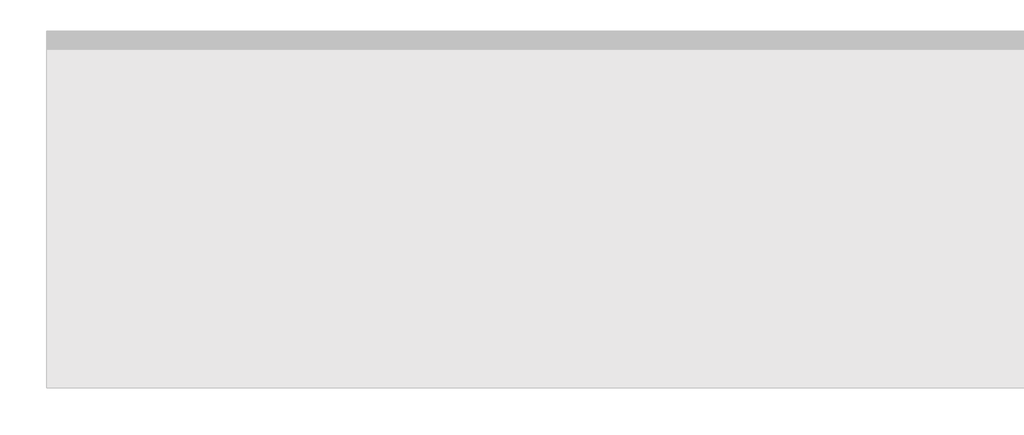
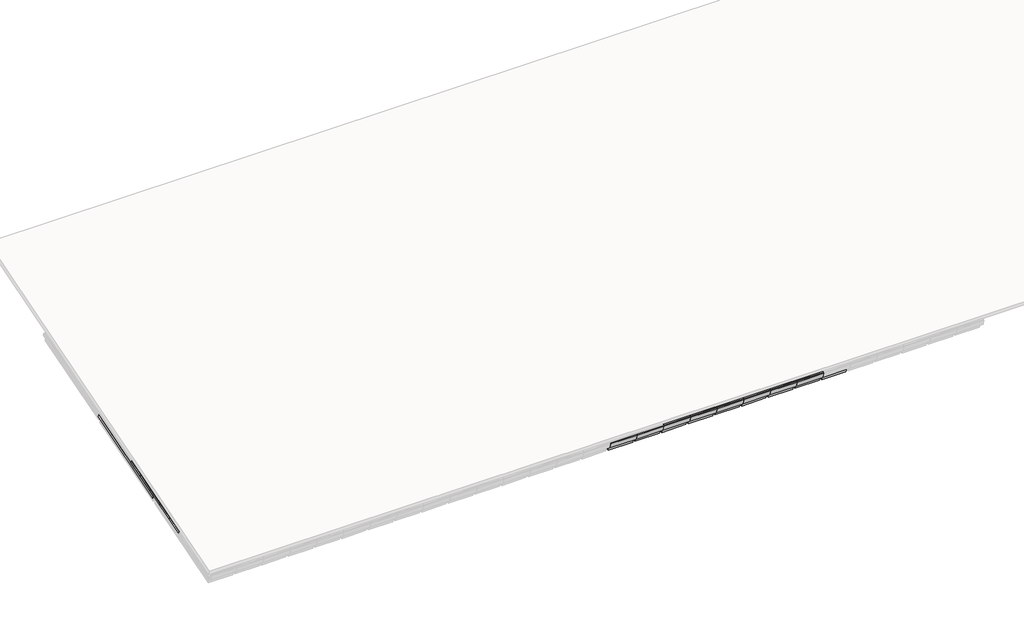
# One storey, part 8 of 57: 77 members, 46 plates.
"""IFC4 building model written with IfcOpenShell, lengths in millimetres."""

from ifc_helpers import new_model, si_unit, origin, place, context, project, spatial, transform, mapped, element, save
from components import rectangular_mullion_59984080, rectangular_mullion_e3e5c75d, rectangular_mullion_2d2423ea, rectangular_mullion_883ae41b, rectangular_mullion_caibro_e4384bba, rectangular_mullion_caibro_22b168a6, rectangular_mullion_caibro_65769db4, empty_system_panel_vazio_178faf58, empty_system_panel_vazio_2c78850d

model = new_model("IFC4")

# Units and contexts
model_context = context("Model", 3, world=origin())
ifc_project = project(units=[si_unit("LENGTHUNIT", "METRE", prefix="MILLI")], contexts=[model_context])

# Site, building, storey
site = spatial("IfcSite", under=ifc_project)
building = spatial("IfcBuilding", under=site)
storey = spatial("IfcBuildingStorey", under=building, Name="Nível 2", Elevation=4100.0)

# Members
placement = place(None, origin())
rectangular_mullion_shape = rectangular_mullion_59984080(model_context)
element("IfcMember", 1, ObjectType="Rectangular Mullion : Ripa", at=placement, inside=storey, context=model_context, shape_type="MappedRepresentation", body=[
    mapped(rectangular_mullion_shape, transform((11329.556755, 7422.2287521, 3376.7178042), x_axis=(0.0, 0.9578262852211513, 0.2873478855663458), y_axis=(0.0, 0.2873478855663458, -0.9578262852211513), z_axis=(-1.0, 0.0, 0.0))),
])
element("IfcMember", 2, ObjectType="Rectangular Mullion : Ripa", at=placement, inside=storey, context=model_context, shape_type="MappedRepresentation", body=[
    mapped(rectangular_mullion_shape, transform((11926.6115114, 7422.2287521, 3376.7178042), x_axis=(0.0, 0.9578262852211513, 0.2873478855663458), y_axis=(0.0, 0.2873478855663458, -0.9578262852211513), z_axis=(-1.0, 0.0, 0.0))),
])
element("IfcMember", 3, ObjectType="Rectangular Mullion : Ripa", at=placement, inside=storey, context=model_context, shape_type="MappedRepresentation", body=[
    mapped(rectangular_mullion_shape, transform((12523.6662678, 7422.2287521, 3376.7178042), x_axis=(0.0, 0.9578262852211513, 0.2873478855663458), y_axis=(0.0, 0.2873478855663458, -0.9578262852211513), z_axis=(-1.0, 0.0, 0.0))),
])
element("IfcMember", 4, ObjectType="Rectangular Mullion : Ripa", at=placement, inside=storey, context=model_context, shape_type="MappedRepresentation", body=[
    mapped(rectangular_mullion_shape, transform((13120.7210242, 7422.2287521, 3376.7178042), x_axis=(0.0, 0.9578262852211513, 0.2873478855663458), y_axis=(0.0, 0.2873478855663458, -0.9578262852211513), z_axis=(-1.0, 0.0, 0.0))),
])
element("IfcMember", 5, ObjectType="Rectangular Mullion : Ripa", at=placement, inside=storey, context=model_context, shape_type="MappedRepresentation", body=[
    mapped(rectangular_mullion_shape, transform((13717.7757807, 7422.2287521, 3376.7178042), x_axis=(0.0, 0.9578262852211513, 0.2873478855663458), y_axis=(0.0, 0.2873478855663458, -0.9578262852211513), z_axis=(-1.0, 0.0, 0.0))),
])
element("IfcMember", 6, ObjectType="Rectangular Mullion : Ripa", at=placement, inside=storey, context=model_context, shape_type="MappedRepresentation", body=[
    mapped(rectangular_mullion_shape, transform((14314.8305371, 7422.2287521, 3376.7178042), x_axis=(0.0, 0.9578262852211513, 0.2873478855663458), y_axis=(0.0, 0.2873478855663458, -0.9578262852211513), z_axis=(-1.0, 0.0, 0.0))),
])
element("IfcMember", 7, ObjectType="Rectangular Mullion : Ripa", at=placement, inside=storey, context=model_context, shape_type="MappedRepresentation", body=[
    mapped(rectangular_mullion_shape, transform((14911.8852935, 7422.2287521, 3376.7178042), x_axis=(0.0, 0.9578262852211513, 0.2873478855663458), y_axis=(0.0, 0.2873478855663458, -0.9578262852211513), z_axis=(-1.0, 0.0, 0.0))),
])
element("IfcMember", 8, ObjectType="Rectangular Mullion : Ripa", at=placement, inside=storey, context=model_context, shape_type="MappedRepresentation", body=[
    mapped(rectangular_mullion_shape, transform((15508.9400499, 7422.2287521, 3376.7178042), x_axis=(0.0, 0.9578262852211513, 0.2873478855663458), y_axis=(0.0, 0.2873478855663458, -0.9578262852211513), z_axis=(-1.0, 0.0, 0.0))),
])
element("IfcMember", 9, ObjectType="Rectangular Mullion : Ripa", at=placement, inside=storey, context=model_context, shape_type="MappedRepresentation", body=[
    mapped(rectangular_mullion_shape, transform((11329.556755, 7792.4060108, 3487.7709818), x_axis=(0.0, 0.9578262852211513, 0.2873478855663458), y_axis=(0.0, 0.2873478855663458, -0.9578262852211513), z_axis=(-1.0, 0.0, 0.0))),
])
element("IfcMember", 10, ObjectType="Rectangular Mullion : Ripa", at=placement, inside=storey, context=model_context, shape_type="MappedRepresentation", body=[
    mapped(rectangular_mullion_shape, transform((11926.6115114, 7792.4060108, 3487.7709818), x_axis=(0.0, 0.9578262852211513, 0.2873478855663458), y_axis=(0.0, 0.2873478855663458, -0.9578262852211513), z_axis=(-1.0, 0.0, 0.0))),
])
element("IfcMember", 11, ObjectType="Rectangular Mullion : Ripa", at=placement, inside=storey, context=model_context, shape_type="MappedRepresentation", body=[
    mapped(rectangular_mullion_shape, transform((12523.6662678, 7792.4060108, 3487.7709818), x_axis=(0.0, 0.9578262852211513, 0.2873478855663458), y_axis=(0.0, 0.2873478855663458, -0.9578262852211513), z_axis=(-1.0, 0.0, 0.0))),
])
element("IfcMember", 12, ObjectType="Rectangular Mullion : Ripa", at=placement, inside=storey, context=model_context, shape_type="MappedRepresentation", body=[
    mapped(rectangular_mullion_shape, transform((13120.7210242, 7792.4060108, 3487.7709818), x_axis=(0.0, 0.9578262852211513, 0.2873478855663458), y_axis=(0.0, 0.2873478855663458, -0.9578262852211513), z_axis=(-1.0, 0.0, 0.0))),
])
element("IfcMember", 13, ObjectType="Rectangular Mullion : Ripa", at=placement, inside=storey, context=model_context, shape_type="MappedRepresentation", body=[
    mapped(rectangular_mullion_shape, transform((13717.7757807, 7792.4060108, 3487.7709818), x_axis=(0.0, 0.9578262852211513, 0.2873478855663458), y_axis=(0.0, 0.2873478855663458, -0.9578262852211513), z_axis=(-1.0, 0.0, 0.0))),
])
element("IfcMember", 14, ObjectType="Rectangular Mullion : Ripa", at=placement, inside=storey, context=model_context, shape_type="MappedRepresentation", body=[
    mapped(rectangular_mullion_shape, transform((14314.8305371, 7792.4060108, 3487.7709818), x_axis=(0.0, 0.9578262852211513, 0.2873478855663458), y_axis=(0.0, 0.2873478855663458, -0.9578262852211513), z_axis=(-1.0, 0.0, 0.0))),
])
element("IfcMember", 15, ObjectType="Rectangular Mullion : Ripa", at=placement, inside=storey, context=model_context, shape_type="MappedRepresentation", body=[
    mapped(rectangular_mullion_shape, transform((14911.8852935, 7792.4060108, 3487.7709818), x_axis=(0.0, 0.9578262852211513, 0.2873478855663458), y_axis=(0.0, 0.2873478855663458, -0.9578262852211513), z_axis=(-1.0, 0.0, 0.0))),
])
element("IfcMember", 16, ObjectType="Rectangular Mullion : Ripa", at=placement, inside=storey, context=model_context, shape_type="MappedRepresentation", body=[
    mapped(rectangular_mullion_shape, transform((15508.9400499, 7792.4060108, 3487.7709818), x_axis=(0.0, 0.9578262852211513, 0.2873478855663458), y_axis=(0.0, 0.2873478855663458, -0.9578262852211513), z_axis=(-1.0, 0.0, 0.0))),
])
element("IfcMember", 17, ObjectType="Rectangular Mullion : Ripa", at=placement, inside=storey, context=model_context, shape_type="MappedRepresentation", body=[
    mapped(rectangular_mullion_shape, transform((1776.6806519, 8162.5832694, 3598.8241594), x_axis=(0.0, 0.9578262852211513, 0.2873478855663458), y_axis=(0.0, 0.2873478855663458, -0.9578262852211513), z_axis=(-1.0, 0.0, 0.0))),
])
element("IfcMember", 18, ObjectType="Rectangular Mullion : Ripa", at=placement, inside=storey, context=model_context, shape_type="MappedRepresentation", body=[
    mapped(rectangular_mullion_shape, transform((2373.7354086, 8162.5832694, 3598.8241594), x_axis=(0.0, 0.9578262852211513, 0.2873478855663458), y_axis=(0.0, 0.2873478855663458, -0.9578262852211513), z_axis=(-1.0, 0.0, 0.0))),
])
element("IfcMember", 19, ObjectType="Rectangular Mullion : Ripa", at=placement, inside=storey, context=model_context, shape_type="MappedRepresentation", body=[
    mapped(rectangular_mullion_shape, transform((2970.790165, 8162.5832694, 3598.8241594), x_axis=(0.0, 0.9578262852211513, 0.2873478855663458), y_axis=(0.0, 0.2873478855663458, -0.9578262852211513), z_axis=(-1.0, 0.0, 0.0))),
])
element("IfcMember", 20, ObjectType="Rectangular Mullion : Ripa", at=placement, inside=storey, context=model_context, shape_type="MappedRepresentation", body=[
    mapped(rectangular_mullion_shape, transform((3567.8449214, 8162.5832694, 3598.8241594), x_axis=(0.0, 0.9578262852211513, 0.2873478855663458), y_axis=(0.0, 0.2873478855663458, -0.9578262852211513), z_axis=(-1.0, 0.0, 0.0))),
])
element("IfcMember", 21, ObjectType="Rectangular Mullion : Ripa", at=placement, inside=storey, context=model_context, shape_type="MappedRepresentation", body=[
    mapped(rectangular_mullion_shape, transform((1776.6806519, 8532.7605281, 3709.877337), x_axis=(0.0, 0.9578262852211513, 0.2873478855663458), y_axis=(0.0, 0.2873478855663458, -0.9578262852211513), z_axis=(-1.0, 0.0, 0.0))),
])
element("IfcMember", 22, ObjectType="Rectangular Mullion : Ripa", at=placement, inside=storey, context=model_context, shape_type="MappedRepresentation", body=[
    mapped(rectangular_mullion_shape, transform((2373.7354086, 8532.7605281, 3709.877337), x_axis=(0.0, 0.9578262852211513, 0.2873478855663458), y_axis=(0.0, 0.2873478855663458, -0.9578262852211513), z_axis=(-1.0, 0.0, 0.0))),
])
element("IfcMember", 23, ObjectType="Rectangular Mullion : Ripa", at=placement, inside=storey, context=model_context, shape_type="MappedRepresentation", body=[
    mapped(rectangular_mullion_shape, transform((2970.790165, 8532.7605281, 3709.877337), x_axis=(0.0, 0.9578262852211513, 0.2873478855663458), y_axis=(0.0, 0.2873478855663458, -0.9578262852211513), z_axis=(-1.0, 0.0, 0.0))),
])
element("IfcMember", 24, ObjectType="Rectangular Mullion : Ripa", at=placement, inside=storey, context=model_context, shape_type="MappedRepresentation", body=[
    mapped(rectangular_mullion_shape, transform((3567.8449214, 8532.7605281, 3709.877337), x_axis=(0.0, 0.9578262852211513, 0.2873478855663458), y_axis=(0.0, 0.2873478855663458, -0.9578262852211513), z_axis=(-1.0, 0.0, 0.0))),
])
element("IfcMember", 25, ObjectType="Rectangular Mullion : Ripa", at=placement, inside=storey, context=model_context, shape_type="MappedRepresentation", body=[
    mapped(rectangular_mullion_shape, transform((1776.6806519, 8902.9377868, 3820.9305146), x_axis=(0.0, 0.9578262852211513, 0.2873478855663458), y_axis=(0.0, 0.2873478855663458, -0.9578262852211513), z_axis=(-1.0, 0.0, 0.0))),
])
element("IfcMember", 26, ObjectType="Rectangular Mullion : Ripa", at=placement, inside=storey, context=model_context, shape_type="MappedRepresentation", body=[
    mapped(rectangular_mullion_shape, transform((2373.7354086, 8902.9377868, 3820.9305146), x_axis=(0.0, 0.9578262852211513, 0.2873478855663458), y_axis=(0.0, 0.2873478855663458, -0.9578262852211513), z_axis=(-1.0, 0.0, 0.0))),
])
element("IfcMember", 27, ObjectType="Rectangular Mullion : Ripa", at=placement, inside=storey, context=model_context, shape_type="MappedRepresentation", body=[
    mapped(rectangular_mullion_shape, transform((2970.790165, 8902.9377868, 3820.9305146), x_axis=(0.0, 0.9578262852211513, 0.2873478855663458), y_axis=(0.0, 0.2873478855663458, -0.9578262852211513), z_axis=(-1.0, 0.0, 0.0))),
])
element("IfcMember", 28, ObjectType="Rectangular Mullion : Ripa", at=placement, inside=storey, context=model_context, shape_type="MappedRepresentation", body=[
    mapped(rectangular_mullion_shape, transform((3567.8449214, 8902.9377868, 3820.9305146), x_axis=(0.0, 0.9578262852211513, 0.2873478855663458), y_axis=(0.0, 0.2873478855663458, -0.9578262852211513), z_axis=(-1.0, 0.0, 0.0))),
])
element("IfcMember", 29, ObjectType="Rectangular Mullion : Ripa", at=placement, inside=storey, context=model_context, shape_type="MappedRepresentation", body=[
    mapped(rectangular_mullion_shape, transform((1776.6806519, 9273.1150454, 3931.9836922), x_axis=(0.0, 0.9578262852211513, 0.2873478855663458), y_axis=(0.0, 0.2873478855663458, -0.9578262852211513), z_axis=(-1.0, 0.0, 0.0))),
])
element("IfcMember", 30, ObjectType="Rectangular Mullion : Ripa", at=placement, inside=storey, context=model_context, shape_type="MappedRepresentation", body=[
    mapped(rectangular_mullion_shape, transform((1776.6806519, 9643.2923041, 4043.0368698), x_axis=(0.0, 0.9578262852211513, 0.2873478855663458), y_axis=(0.0, 0.2873478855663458, -0.9578262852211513), z_axis=(-1.0, 0.0, 0.0))),
])
rectangular_mullion_2_shape = rectangular_mullion_e3e5c75d(model_context)
element("IfcMember", 31, ObjectType="Rectangular Mullion : Ripa", at=placement, inside=storey, context=model_context, shape_type="MappedRepresentation", body=[
    mapped(rectangular_mullion_2_shape, transform((12498.6662678, 7004.1601792, 3251.2972323), x_axis=(0.0, -0.9578262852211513, -0.2873478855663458), y_axis=(0.0, 0.2873478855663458, -0.9578262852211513), z_axis=(1.0, 0.0, 0.0))),
])
element("IfcMember", 32, ObjectType="Rectangular Mullion : Ripa", at=placement, inside=storey, context=model_context, shape_type="MappedRepresentation", body=[
    mapped(rectangular_mullion_2_shape, transform((13095.7210242, 7004.1601792, 3251.2972323), x_axis=(0.0, -0.9578262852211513, -0.2873478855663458), y_axis=(0.0, 0.2873478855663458, -0.9578262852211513), z_axis=(1.0, 0.0, 0.0))),
])
element("IfcMember", 33, ObjectType="Rectangular Mullion : Ripa", at=placement, inside=storey, context=model_context, shape_type="MappedRepresentation", body=[
    mapped(rectangular_mullion_2_shape, transform((13692.7757807, 7004.1601792, 3251.2972323), x_axis=(0.0, -0.9578262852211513, -0.2873478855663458), y_axis=(0.0, 0.2873478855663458, -0.9578262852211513), z_axis=(1.0, 0.0, 0.0))),
])
element("IfcMember", 34, ObjectType="Rectangular Mullion : Ripa", at=placement, inside=storey, context=model_context, shape_type="MappedRepresentation", body=[
    mapped(rectangular_mullion_2_shape, transform((14289.8305371, 7004.1601792, 3251.2972323), x_axis=(0.0, -0.9578262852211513, -0.2873478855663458), y_axis=(0.0, 0.2873478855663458, -0.9578262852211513), z_axis=(1.0, 0.0, 0.0))),
])
element("IfcMember", 35, ObjectType="Rectangular Mullion : Ripa", at=placement, inside=storey, context=model_context, shape_type="MappedRepresentation", body=[
    mapped(rectangular_mullion_2_shape, transform((14886.8852935, 7004.1601792, 3251.2972323), x_axis=(0.0, -0.9578262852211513, -0.2873478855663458), y_axis=(0.0, 0.2873478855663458, -0.9578262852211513), z_axis=(1.0, 0.0, 0.0))),
])
element("IfcMember", 36, ObjectType="Rectangular Mullion : Ripa", at=placement, inside=storey, context=model_context, shape_type="MappedRepresentation", body=[
    mapped(rectangular_mullion_2_shape, transform((15483.9400499, 7004.1601792, 3251.2972323), x_axis=(0.0, -0.9578262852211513, -0.2873478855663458), y_axis=(0.0, 0.2873478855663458, -0.9578262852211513), z_axis=(1.0, 0.0, 0.0))),
])
rectangular_mullion_3_shape = rectangular_mullion_2d2423ea(model_context)
element("IfcMember", 37, ObjectType="Rectangular Mullion : Terça", at=placement, inside=storey, context=model_context, shape_type="MappedRepresentation", body=[
    mapped(rectangular_mullion_3_shape, transform((1776.6806519, 9159.0196393, 3835.1132313), x_axis=(0.0, 0.9578262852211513, 0.2873478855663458), y_axis=(0.0, 0.2873478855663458, -0.9578262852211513), z_axis=(-1.0, 0.0, 0.0))),
])
rectangular_mullion_4_shape = rectangular_mullion_883ae41b(model_context)
element("IfcMember", 38, ObjectType="Rectangular Mullion : Terça", at=placement, inside=storey, context=model_context, shape_type="MappedRepresentation", body=[
    mapped(rectangular_mullion_4_shape, transform((11304.556755, 7004.1601792, 3188.6553932), x_axis=(0.0, -0.9578262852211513, -0.2873478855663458), y_axis=(0.0, 0.2873478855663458, -0.9578262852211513), z_axis=(1.0, 0.0, 0.0))),
])
element("IfcMember", 39, ObjectType="Rectangular Mullion : Terça", at=placement, inside=storey, context=model_context, shape_type="MappedRepresentation", body=[
    mapped(rectangular_mullion_4_shape, transform((11901.6115114, 7004.1601792, 3188.6553932), x_axis=(0.0, -0.9578262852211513, -0.2873478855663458), y_axis=(0.0, 0.2873478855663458, -0.9578262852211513), z_axis=(1.0, 0.0, 0.0))),
])
element("IfcMember", 40, ObjectType="Rectangular Mullion : Terça", at=placement, inside=storey, context=model_context, shape_type="MappedRepresentation", body=[
    mapped(rectangular_mullion_4_shape, transform((12498.6662678, 7004.1601792, 3188.6553932), x_axis=(0.0, -0.9578262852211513, -0.2873478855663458), y_axis=(0.0, 0.2873478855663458, -0.9578262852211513), z_axis=(1.0, 0.0, 0.0))),
])
element("IfcMember", 41, ObjectType="Rectangular Mullion : Terça", at=placement, inside=storey, context=model_context, shape_type="MappedRepresentation", body=[
    mapped(rectangular_mullion_4_shape, transform((13095.7210242, 7004.1601792, 3188.6553932), x_axis=(0.0, -0.9578262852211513, -0.2873478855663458), y_axis=(0.0, 0.2873478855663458, -0.9578262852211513), z_axis=(1.0, 0.0, 0.0))),
])
element("IfcMember", 42, ObjectType="Rectangular Mullion : Terça", at=placement, inside=storey, context=model_context, shape_type="MappedRepresentation", body=[
    mapped(rectangular_mullion_4_shape, transform((13692.7757807, 7004.1601792, 3188.6553932), x_axis=(0.0, -0.9578262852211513, -0.2873478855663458), y_axis=(0.0, 0.2873478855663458, -0.9578262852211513), z_axis=(1.0, 0.0, 0.0))),
])
element("IfcMember", 43, ObjectType="Rectangular Mullion : Terça", at=placement, inside=storey, context=model_context, shape_type="MappedRepresentation", body=[
    mapped(rectangular_mullion_4_shape, transform((14289.8305371, 7004.1601792, 3188.6553932), x_axis=(0.0, -0.9578262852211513, -0.2873478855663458), y_axis=(0.0, 0.2873478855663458, -0.9578262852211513), z_axis=(1.0, 0.0, 0.0))),
])
element("IfcMember", 44, ObjectType="Rectangular Mullion : Terça", at=placement, inside=storey, context=model_context, shape_type="MappedRepresentation", body=[
    mapped(rectangular_mullion_4_shape, transform((14886.8852935, 7004.1601792, 3188.6553932), x_axis=(0.0, -0.9578262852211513, -0.2873478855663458), y_axis=(0.0, 0.2873478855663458, -0.9578262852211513), z_axis=(1.0, 0.0, 0.0))),
])
element("IfcMember", 45, ObjectType="Rectangular Mullion : Terça", at=placement, inside=storey, context=model_context, shape_type="MappedRepresentation", body=[
    mapped(rectangular_mullion_4_shape, transform((15483.9400499, 7004.1601792, 3188.6553932), x_axis=(0.0, -0.9578262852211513, -0.2873478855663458), y_axis=(0.0, 0.2873478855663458, -0.9578262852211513), z_axis=(1.0, 0.0, 0.0))),
])
rectangular_mullion_caibro_shape = rectangular_mullion_caibro_e4384bba(model_context)
element("IfcMember", 46, ObjectType="Rectangular Mullion : Caibro", at=placement, inside=storey, context=model_context, shape_type="MappedRepresentation", body=[
    mapped(rectangular_mullion_caibro_shape, transform((11901.6115114, 7422.2287521, 3376.7178042), x_axis=(1.0, 0.0, 0.0), y_axis=(0.0, 0.2873478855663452, -0.9578262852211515), z_axis=(0.0, 0.9578262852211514, 0.28734788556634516))),
])
element("IfcMember", 47, ObjectType="Rectangular Mullion : Caibro", at=placement, inside=storey, context=model_context, shape_type="MappedRepresentation", body=[
    mapped(rectangular_mullion_caibro_shape, transform((12498.6662678, 7422.2287521, 3376.7178042), x_axis=(1.0, 0.0, 0.0), y_axis=(0.0, 0.2873478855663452, -0.9578262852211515), z_axis=(0.0, 0.9578262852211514, 0.28734788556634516))),
])
element("IfcMember", 48, ObjectType="Rectangular Mullion : Caibro", at=placement, inside=storey, context=model_context, shape_type="MappedRepresentation", body=[
    mapped(rectangular_mullion_caibro_shape, transform((13095.7210242, 7422.2287521, 3376.7178042), x_axis=(1.0, 0.0, 0.0), y_axis=(0.0, 0.2873478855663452, -0.9578262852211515), z_axis=(0.0, 0.9578262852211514, 0.28734788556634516))),
])
element("IfcMember", 49, ObjectType="Rectangular Mullion : Caibro", at=placement, inside=storey, context=model_context, shape_type="MappedRepresentation", body=[
    mapped(rectangular_mullion_caibro_shape, transform((13692.7757807, 7422.2287521, 3376.7178042), x_axis=(1.0, 0.0, 0.0), y_axis=(0.0, 0.2873478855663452, -0.9578262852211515), z_axis=(0.0, 0.9578262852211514, 0.28734788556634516))),
])
element("IfcMember", 50, ObjectType="Rectangular Mullion : Caibro", at=placement, inside=storey, context=model_context, shape_type="MappedRepresentation", body=[
    mapped(rectangular_mullion_caibro_shape, transform((14289.8305371, 7422.2287521, 3376.7178042), x_axis=(1.0, 0.0, 0.0), y_axis=(0.0, 0.2873478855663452, -0.9578262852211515), z_axis=(0.0, 0.9578262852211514, 0.28734788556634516))),
])
element("IfcMember", 51, ObjectType="Rectangular Mullion : Caibro", at=placement, inside=storey, context=model_context, shape_type="MappedRepresentation", body=[
    mapped(rectangular_mullion_caibro_shape, transform((14886.8852935, 7422.2287521, 3376.7178042), x_axis=(1.0, 0.0, 0.0), y_axis=(0.0, 0.2873478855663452, -0.9578262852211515), z_axis=(0.0, 0.9578262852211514, 0.28734788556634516))),
])
element("IfcMember", 52, ObjectType="Rectangular Mullion : Caibro", at=placement, inside=storey, context=model_context, shape_type="MappedRepresentation", body=[
    mapped(rectangular_mullion_caibro_shape, transform((15483.9400499, 7422.2287521, 3376.7178042), x_axis=(1.0, 0.0, 0.0), y_axis=(0.0, 0.2873478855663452, -0.9578262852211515), z_axis=(0.0, 0.9578262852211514, 0.28734788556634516))),
])
element("IfcMember", 53, ObjectType="Rectangular Mullion : Caibro", at=placement, inside=storey, context=model_context, shape_type="MappedRepresentation", body=[
    mapped(rectangular_mullion_caibro_shape, transform((2348.7354086, 8162.5832694, 3598.8241594), x_axis=(1.0, 0.0, 0.0), y_axis=(0.0, 0.28734788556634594, -0.9578262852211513), z_axis=(0.0, 0.9578262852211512, 0.2873478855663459))),
])
element("IfcMember", 54, ObjectType="Rectangular Mullion : Caibro", at=placement, inside=storey, context=model_context, shape_type="MappedRepresentation", body=[
    mapped(rectangular_mullion_caibro_shape, transform((2348.7354086, 8532.7605281, 3709.877337), x_axis=(1.0, 0.0, 0.0), y_axis=(0.0, 0.2873478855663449, -0.9578262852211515), z_axis=(0.0, 0.9578262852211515, 0.2873478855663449))),
])
element("IfcMember", 55, ObjectType="Rectangular Mullion : Caibro", at=placement, inside=storey, context=model_context, shape_type="MappedRepresentation", body=[
    mapped(rectangular_mullion_caibro_shape, transform((2348.7354086, 8902.9377868, 3820.9305146), x_axis=(1.0, 0.0, 0.0), y_axis=(0.0, 0.2873478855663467, -0.9578262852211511), z_axis=(0.0, 0.9578262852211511, 0.2873478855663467))),
])
element("IfcMember", 56, ObjectType="Rectangular Mullion : Caibro", at=placement, inside=storey, context=model_context, shape_type="MappedRepresentation", body=[
    mapped(rectangular_mullion_caibro_shape, transform((2348.7354086, 9273.1150454, 3931.9836922), x_axis=(1.0, 0.0, 0.0), y_axis=(0.0, 0.2873478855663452, -0.9578262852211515), z_axis=(0.0, 0.9578262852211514, 0.28734788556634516))),
])
element("IfcMember", 57, ObjectType="Rectangular Mullion : Caibro", at=placement, inside=storey, context=model_context, shape_type="MappedRepresentation", body=[
    mapped(rectangular_mullion_caibro_shape, transform((2348.7354086, 9643.2923041, 4043.0368698), x_axis=(1.0, 0.0, 0.0), y_axis=(0.0, 0.2873478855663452, -0.9578262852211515), z_axis=(0.0, 0.9578262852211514, 0.28734788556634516))),
])
element("IfcMember", 58, ObjectType="Rectangular Mullion : Caibro", at=placement, inside=storey, context=model_context, shape_type="MappedRepresentation", body=[
    mapped(rectangular_mullion_caibro_shape, transform((2945.790165, 8162.5832694, 3598.8241594), x_axis=(1.0, 0.0, 0.0), y_axis=(0.0, 0.28734788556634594, -0.9578262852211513), z_axis=(0.0, 0.9578262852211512, 0.2873478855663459))),
])
element("IfcMember", 59, ObjectType="Rectangular Mullion : Caibro", at=placement, inside=storey, context=model_context, shape_type="MappedRepresentation", body=[
    mapped(rectangular_mullion_caibro_shape, transform((2945.790165, 8532.7605281, 3709.877337), x_axis=(1.0, 0.0, 0.0), y_axis=(0.0, 0.2873478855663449, -0.9578262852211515), z_axis=(0.0, 0.9578262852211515, 0.2873478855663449))),
])
element("IfcMember", 60, ObjectType="Rectangular Mullion : Caibro", at=placement, inside=storey, context=model_context, shape_type="MappedRepresentation", body=[
    mapped(rectangular_mullion_caibro_shape, transform((2945.790165, 8902.9377868, 3820.9305146), x_axis=(1.0, 0.0, 0.0), y_axis=(0.0, 0.2873478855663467, -0.9578262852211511), z_axis=(0.0, 0.9578262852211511, 0.2873478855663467))),
])
element("IfcMember", 61, ObjectType="Rectangular Mullion : Caibro", at=placement, inside=storey, context=model_context, shape_type="MappedRepresentation", body=[
    mapped(rectangular_mullion_caibro_shape, transform((3542.8449214, 8162.5832694, 3598.8241594), x_axis=(1.0, 0.0, 0.0), y_axis=(0.0, 0.28734788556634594, -0.9578262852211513), z_axis=(0.0, 0.9578262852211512, 0.2873478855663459))),
])
element("IfcMember", 62, ObjectType="Rectangular Mullion : Caibro", at=placement, inside=storey, context=model_context, shape_type="MappedRepresentation", body=[
    mapped(rectangular_mullion_caibro_shape, transform((3542.8449214, 8532.7605281, 3709.877337), x_axis=(1.0, 0.0, 0.0), y_axis=(0.0, 0.2873478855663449, -0.9578262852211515), z_axis=(0.0, 0.9578262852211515, 0.2873478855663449))),
])
element("IfcMember", 63, ObjectType="Rectangular Mullion : Caibro", at=placement, inside=storey, context=model_context, shape_type="MappedRepresentation", body=[
    mapped(rectangular_mullion_caibro_shape, transform((3542.8449214, 8902.9377868, 3820.9305146), x_axis=(1.0, 0.0, 0.0), y_axis=(0.0, 0.2873478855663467, -0.9578262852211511), z_axis=(0.0, 0.9578262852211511, 0.2873478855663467))),
])
element("IfcMember", 64, ObjectType="Rectangular Mullion : Caibro", at=placement, inside=storey, context=model_context, shape_type="MappedRepresentation", body=[
    mapped(rectangular_mullion_caibro_shape, transform((11304.556755, 7792.4060108, 3487.7709818), x_axis=(1.0, 0.0, 0.0), y_axis=(0.0, 0.2873478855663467, -0.9578262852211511), z_axis=(0.0, 0.9578262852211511, 0.2873478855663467))),
])
element("IfcMember", 65, ObjectType="Rectangular Mullion : Caibro", at=placement, inside=storey, context=model_context, shape_type="MappedRepresentation", body=[
    mapped(rectangular_mullion_caibro_shape, transform((11901.6115114, 7792.4060108, 3487.7709818), x_axis=(1.0, 0.0, 0.0), y_axis=(0.0, 0.2873478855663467, -0.9578262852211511), z_axis=(0.0, 0.9578262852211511, 0.2873478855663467))),
])
element("IfcMember", 66, ObjectType="Rectangular Mullion : Caibro", at=placement, inside=storey, context=model_context, shape_type="MappedRepresentation", body=[
    mapped(rectangular_mullion_caibro_shape, transform((12498.6662678, 7792.4060108, 3487.7709818), x_axis=(1.0, 0.0, 0.0), y_axis=(0.0, 0.2873478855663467, -0.9578262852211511), z_axis=(0.0, 0.9578262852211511, 0.2873478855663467))),
])
element("IfcMember", 67, ObjectType="Rectangular Mullion : Caibro", at=placement, inside=storey, context=model_context, shape_type="MappedRepresentation", body=[
    mapped(rectangular_mullion_caibro_shape, transform((13095.7210242, 7792.4060108, 3487.7709818), x_axis=(1.0, 0.0, 0.0), y_axis=(0.0, 0.2873478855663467, -0.9578262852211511), z_axis=(0.0, 0.9578262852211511, 0.2873478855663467))),
])
element("IfcMember", 68, ObjectType="Rectangular Mullion : Caibro", at=placement, inside=storey, context=model_context, shape_type="MappedRepresentation", body=[
    mapped(rectangular_mullion_caibro_shape, transform((13692.7757807, 7792.4060108, 3487.7709818), x_axis=(1.0, 0.0, 0.0), y_axis=(0.0, 0.2873478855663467, -0.9578262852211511), z_axis=(0.0, 0.9578262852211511, 0.2873478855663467))),
])
element("IfcMember", 69, ObjectType="Rectangular Mullion : Caibro", at=placement, inside=storey, context=model_context, shape_type="MappedRepresentation", body=[
    mapped(rectangular_mullion_caibro_shape, transform((14289.8305371, 7792.4060108, 3487.7709818), x_axis=(1.0, 0.0, 0.0), y_axis=(0.0, 0.2873478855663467, -0.9578262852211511), z_axis=(0.0, 0.9578262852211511, 0.2873478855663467))),
])
element("IfcMember", 70, ObjectType="Rectangular Mullion : Caibro", at=placement, inside=storey, context=model_context, shape_type="MappedRepresentation", body=[
    mapped(rectangular_mullion_caibro_shape, transform((14886.8852935, 7792.4060108, 3487.7709818), x_axis=(1.0, 0.0, 0.0), y_axis=(0.0, 0.2873478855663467, -0.9578262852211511), z_axis=(0.0, 0.9578262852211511, 0.2873478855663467))),
])
element("IfcMember", 71, ObjectType="Rectangular Mullion : Caibro", at=placement, inside=storey, context=model_context, shape_type="MappedRepresentation", body=[
    mapped(rectangular_mullion_caibro_shape, transform((15483.9400499, 7792.4060108, 3487.7709818), x_axis=(1.0, 0.0, 0.0), y_axis=(0.0, 0.2873478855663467, -0.9578262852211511), z_axis=(0.0, 0.9578262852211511, 0.2873478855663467))),
])
rectangular_mullion_caibro_2_shape = rectangular_mullion_caibro_22b168a6(model_context)
element("IfcMember", 72, ObjectType="Rectangular Mullion : Caibro", at=placement, inside=storey, context=model_context, shape_type="MappedRepresentation", body=[
    mapped(rectangular_mullion_caibro_2_shape, transform((1726.6806519, 8162.5832694, 3598.8241594), x_axis=(-1.0, 0.0, 0.0), y_axis=(0.0, 0.28734788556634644, -0.9578262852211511), z_axis=(0.0, -0.957826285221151, -0.2873478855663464))),
])
element("IfcMember", 73, ObjectType="Rectangular Mullion : Caibro", at=placement, inside=storey, context=model_context, shape_type="MappedRepresentation", body=[
    mapped(rectangular_mullion_caibro_2_shape, transform((1726.6806519, 8532.7605281, 3709.877337), x_axis=(-1.0, 0.0, 0.0), y_axis=(0.0, 0.2873478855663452, -0.9578262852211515), z_axis=(0.0, -0.9578262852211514, -0.28734788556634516))),
])
element("IfcMember", 74, ObjectType="Rectangular Mullion : Caibro", at=placement, inside=storey, context=model_context, shape_type="MappedRepresentation", body=[
    mapped(rectangular_mullion_caibro_2_shape, transform((1726.6806519, 8902.9377868, 3820.9305146), x_axis=(-1.0, 0.0, 0.0), y_axis=(0.0, 0.28734788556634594, -0.9578262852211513), z_axis=(0.0, -0.9578262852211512, -0.2873478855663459))),
])
element("IfcMember", 75, ObjectType="Rectangular Mullion : Caibro", at=placement, inside=storey, context=model_context, shape_type="MappedRepresentation", body=[
    mapped(rectangular_mullion_caibro_2_shape, transform((1726.6806519, 9273.1150454, 3931.9836922), x_axis=(-1.0, 0.0, 0.0), y_axis=(0.0, 0.2873478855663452, -0.9578262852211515), z_axis=(0.0, -0.9578262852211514, -0.28734788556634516))),
])
element("IfcMember", 76, ObjectType="Rectangular Mullion : Caibro", at=placement, inside=storey, context=model_context, shape_type="MappedRepresentation", body=[
    mapped(rectangular_mullion_caibro_2_shape, transform((1726.6806519, 9643.2923041, 4043.0368698), x_axis=(-1.0, 0.0, 0.0), y_axis=(0.0, 0.28734788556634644, -0.9578262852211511), z_axis=(0.0, -0.957826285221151, -0.2873478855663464))),
])
rectangular_mullion_caibro_3_shape = rectangular_mullion_caibro_65769db4(model_context)
element("IfcMember", 77, ObjectType="Rectangular Mullion : Caibro", at=placement, inside=storey, context=model_context, shape_type="MappedRepresentation", body=[
    mapped(rectangular_mullion_caibro_3_shape, transform((1726.6806519, 9159.0196393, 3835.1132313), x_axis=(-1.0, 0.0, 0.0), y_axis=(0.0, 0.28734788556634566, -0.9578262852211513), z_axis=(0.0, -0.9578262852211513, -0.28734788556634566))),
])

# Plates
empty_system_panel_vazio_shape = empty_system_panel_vazio_178faf58(model_context)
element("IfcPlate", 78, ObjectType="Empty System Panel : Vazio", at=placement, inside=storey, context=model_context, shape_type="MappedRepresentation", body=[
    mapped(empty_system_panel_vazio_shape, transform((12200.1388896, 7052.0514934, 3265.6646266), x_axis=(1.0, 0.0, 0.0), y_axis=(0.0, 0.2873478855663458, -0.9578262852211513), z_axis=(0.0, 0.9578262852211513, 0.2873478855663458))),
])
element("IfcPlate", 79, ObjectType="Empty System Panel : Vazio", at=placement, inside=storey, context=model_context, shape_type="MappedRepresentation", body=[
    mapped(empty_system_panel_vazio_shape, transform((12797.193646, 7052.0514934, 3265.6646266), x_axis=(1.0, 0.0, 0.0), y_axis=(0.0, 0.2873478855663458, -0.9578262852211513), z_axis=(0.0, 0.9578262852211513, 0.2873478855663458))),
])
element("IfcPlate", 80, ObjectType="Empty System Panel : Vazio", at=placement, inside=storey, context=model_context, shape_type="MappedRepresentation", body=[
    mapped(empty_system_panel_vazio_shape, transform((13394.2484024, 7052.0514934, 3265.6646266), x_axis=(1.0, 0.0, 0.0), y_axis=(0.0, 0.2873478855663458, -0.9578262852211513), z_axis=(0.0, 0.9578262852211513, 0.2873478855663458))),
])
element("IfcPlate", 81, ObjectType="Empty System Panel : Vazio", at=placement, inside=storey, context=model_context, shape_type="MappedRepresentation", body=[
    mapped(empty_system_panel_vazio_shape, transform((13991.3031589, 7052.0514934, 3265.6646266), x_axis=(1.0, 0.0, 0.0), y_axis=(0.0, 0.2873478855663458, -0.9578262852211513), z_axis=(0.0, 0.9578262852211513, 0.2873478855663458))),
])
element("IfcPlate", 82, ObjectType="Empty System Panel : Vazio", at=placement, inside=storey, context=model_context, shape_type="MappedRepresentation", body=[
    mapped(empty_system_panel_vazio_shape, transform((14588.3579153, 7052.0514934, 3265.6646266), x_axis=(1.0, 0.0, 0.0), y_axis=(0.0, 0.2873478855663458, -0.9578262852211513), z_axis=(0.0, 0.9578262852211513, 0.2873478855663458))),
])
element("IfcPlate", 83, ObjectType="Empty System Panel : Vazio", at=placement, inside=storey, context=model_context, shape_type="MappedRepresentation", body=[
    mapped(empty_system_panel_vazio_shape, transform((15185.4126717, 7052.0514934, 3265.6646266), x_axis=(1.0, 0.0, 0.0), y_axis=(0.0, 0.2873478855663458, -0.9578262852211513), z_axis=(0.0, 0.9578262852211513, 0.2873478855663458))),
])
element("IfcPlate", 84, ObjectType="Empty System Panel : Vazio", at=placement, inside=storey, context=model_context, shape_type="MappedRepresentation", body=[
    mapped(empty_system_panel_vazio_shape, transform((15782.4674281, 7052.0514934, 3265.6646266), x_axis=(1.0, 0.0, 0.0), y_axis=(0.0, 0.2873478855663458, -0.9578262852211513), z_axis=(0.0, 0.9578262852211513, 0.2873478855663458))),
])
element("IfcPlate", 85, ObjectType="Empty System Panel : Vazio", at=placement, inside=storey, context=model_context, shape_type="MappedRepresentation", body=[
    mapped(empty_system_panel_vazio_shape, transform((12200.1388896, 7422.2287521, 3376.7178042), x_axis=(1.0, 0.0, 0.0), y_axis=(0.0, 0.2873478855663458, -0.9578262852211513), z_axis=(0.0, 0.9578262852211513, 0.2873478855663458))),
])
element("IfcPlate", 86, ObjectType="Empty System Panel : Vazio", at=placement, inside=storey, context=model_context, shape_type="MappedRepresentation", body=[
    mapped(empty_system_panel_vazio_shape, transform((12797.193646, 7422.2287521, 3376.7178042), x_axis=(1.0, 0.0, 0.0), y_axis=(0.0, 0.2873478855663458, -0.9578262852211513), z_axis=(0.0, 0.9578262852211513, 0.2873478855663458))),
])
element("IfcPlate", 87, ObjectType="Empty System Panel : Vazio", at=placement, inside=storey, context=model_context, shape_type="MappedRepresentation", body=[
    mapped(empty_system_panel_vazio_shape, transform((13394.2484024, 7422.2287521, 3376.7178042), x_axis=(1.0, 0.0, 0.0), y_axis=(0.0, 0.2873478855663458, -0.9578262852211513), z_axis=(0.0, 0.9578262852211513, 0.2873478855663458))),
])
element("IfcPlate", 88, ObjectType="Empty System Panel : Vazio", at=placement, inside=storey, context=model_context, shape_type="MappedRepresentation", body=[
    mapped(empty_system_panel_vazio_shape, transform((13991.3031589, 7422.2287521, 3376.7178042), x_axis=(1.0, 0.0, 0.0), y_axis=(0.0, 0.2873478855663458, -0.9578262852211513), z_axis=(0.0, 0.9578262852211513, 0.2873478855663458))),
])
element("IfcPlate", 89, ObjectType="Empty System Panel : Vazio", at=placement, inside=storey, context=model_context, shape_type="MappedRepresentation", body=[
    mapped(empty_system_panel_vazio_shape, transform((14588.3579153, 7422.2287521, 3376.7178042), x_axis=(1.0, 0.0, 0.0), y_axis=(0.0, 0.2873478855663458, -0.9578262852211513), z_axis=(0.0, 0.9578262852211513, 0.2873478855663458))),
])
element("IfcPlate", 90, ObjectType="Empty System Panel : Vazio", at=placement, inside=storey, context=model_context, shape_type="MappedRepresentation", body=[
    mapped(empty_system_panel_vazio_shape, transform((15185.4126717, 7422.2287521, 3376.7178042), x_axis=(1.0, 0.0, 0.0), y_axis=(0.0, 0.2873478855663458, -0.9578262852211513), z_axis=(0.0, 0.9578262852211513, 0.2873478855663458))),
])
element("IfcPlate", 91, ObjectType="Empty System Panel : Vazio", at=placement, inside=storey, context=model_context, shape_type="MappedRepresentation", body=[
    mapped(empty_system_panel_vazio_shape, transform((15782.4674281, 7422.2287521, 3376.7178042), x_axis=(1.0, 0.0, 0.0), y_axis=(0.0, 0.2873478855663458, -0.9578262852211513), z_axis=(0.0, 0.9578262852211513, 0.2873478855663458))),
])
element("IfcPlate", 92, ObjectType="Empty System Panel : Vazio", at=placement, inside=storey, context=model_context, shape_type="MappedRepresentation", body=[
    mapped(empty_system_panel_vazio_shape, transform((12200.1388896, 7792.4060108, 3487.7709818), x_axis=(1.0, 0.0, 0.0), y_axis=(0.0, 0.2873478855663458, -0.9578262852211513), z_axis=(0.0, 0.9578262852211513, 0.2873478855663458))),
])
element("IfcPlate", 93, ObjectType="Empty System Panel : Vazio", at=placement, inside=storey, context=model_context, shape_type="MappedRepresentation", body=[
    mapped(empty_system_panel_vazio_shape, transform((12797.193646, 7792.4060108, 3487.7709818), x_axis=(1.0, 0.0, 0.0), y_axis=(0.0, 0.2873478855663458, -0.9578262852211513), z_axis=(0.0, 0.9578262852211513, 0.2873478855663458))),
])
element("IfcPlate", 94, ObjectType="Empty System Panel : Vazio", at=placement, inside=storey, context=model_context, shape_type="MappedRepresentation", body=[
    mapped(empty_system_panel_vazio_shape, transform((13394.2484024, 7792.4060108, 3487.7709818), x_axis=(1.0, 0.0, 0.0), y_axis=(0.0, 0.2873478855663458, -0.9578262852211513), z_axis=(0.0, 0.9578262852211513, 0.2873478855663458))),
])
element("IfcPlate", 95, ObjectType="Empty System Panel : Vazio", at=placement, inside=storey, context=model_context, shape_type="MappedRepresentation", body=[
    mapped(empty_system_panel_vazio_shape, transform((13991.3031589, 7792.4060108, 3487.7709818), x_axis=(1.0, 0.0, 0.0), y_axis=(0.0, 0.2873478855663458, -0.9578262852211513), z_axis=(0.0, 0.9578262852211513, 0.2873478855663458))),
])
element("IfcPlate", 96, ObjectType="Empty System Panel : Vazio", at=placement, inside=storey, context=model_context, shape_type="MappedRepresentation", body=[
    mapped(empty_system_panel_vazio_shape, transform((14588.3579153, 7792.4060108, 3487.7709818), x_axis=(1.0, 0.0, 0.0), y_axis=(0.0, 0.2873478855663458, -0.9578262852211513), z_axis=(0.0, 0.9578262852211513, 0.2873478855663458))),
])
element("IfcPlate", 97, ObjectType="Empty System Panel : Vazio", at=placement, inside=storey, context=model_context, shape_type="MappedRepresentation", body=[
    mapped(empty_system_panel_vazio_shape, transform((15185.4126717, 7792.4060108, 3487.7709818), x_axis=(1.0, 0.0, 0.0), y_axis=(0.0, 0.2873478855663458, -0.9578262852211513), z_axis=(0.0, 0.9578262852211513, 0.2873478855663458))),
])
element("IfcPlate", 98, ObjectType="Empty System Panel : Vazio", at=placement, inside=storey, context=model_context, shape_type="MappedRepresentation", body=[
    mapped(empty_system_panel_vazio_shape, transform((15782.4674281, 7792.4060108, 3487.7709818), x_axis=(1.0, 0.0, 0.0), y_axis=(0.0, 0.2873478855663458, -0.9578262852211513), z_axis=(0.0, 0.9578262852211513, 0.2873478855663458))),
])
element("IfcPlate", 99, ObjectType="Empty System Panel : Vazio", at=placement, inside=storey, context=model_context, shape_type="MappedRepresentation", body=[
    mapped(empty_system_panel_vazio_shape, transform((2050.2080302, 8162.5832694, 3598.8241594), x_axis=(1.0, 0.0, 0.0), y_axis=(0.0, 0.2873478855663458, -0.9578262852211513), z_axis=(0.0, 0.9578262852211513, 0.2873478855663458))),
])
element("IfcPlate", 100, ObjectType="Empty System Panel : Vazio", at=placement, inside=storey, context=model_context, shape_type="MappedRepresentation", body=[
    mapped(empty_system_panel_vazio_shape, transform((2647.2627868, 8162.5832694, 3598.8241594), x_axis=(1.0, 0.0, 0.0), y_axis=(0.0, 0.2873478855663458, -0.9578262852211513), z_axis=(0.0, 0.9578262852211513, 0.2873478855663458))),
])
element("IfcPlate", 101, ObjectType="Empty System Panel : Vazio", at=placement, inside=storey, context=model_context, shape_type="MappedRepresentation", body=[
    mapped(empty_system_panel_vazio_shape, transform((3244.3175432, 8162.5832694, 3598.8241594), x_axis=(1.0, 0.0, 0.0), y_axis=(0.0, 0.2873478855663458, -0.9578262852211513), z_axis=(0.0, 0.9578262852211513, 0.2873478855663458))),
])
element("IfcPlate", 102, ObjectType="Empty System Panel : Vazio", at=placement, inside=storey, context=model_context, shape_type="MappedRepresentation", body=[
    mapped(empty_system_panel_vazio_shape, transform((3841.3722996, 8162.5832694, 3598.8241594), x_axis=(1.0, 0.0, 0.0), y_axis=(0.0, 0.2873478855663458, -0.9578262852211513), z_axis=(0.0, 0.9578262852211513, 0.2873478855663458))),
])
element("IfcPlate", 103, ObjectType="Empty System Panel : Vazio", at=placement, inside=storey, context=model_context, shape_type="MappedRepresentation", body=[
    mapped(empty_system_panel_vazio_shape, transform((2050.2080302, 8532.7605281, 3709.877337), x_axis=(1.0, 0.0, 0.0), y_axis=(0.0, 0.2873478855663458, -0.9578262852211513), z_axis=(0.0, 0.9578262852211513, 0.2873478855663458))),
])
element("IfcPlate", 104, ObjectType="Empty System Panel : Vazio", at=placement, inside=storey, context=model_context, shape_type="MappedRepresentation", body=[
    mapped(empty_system_panel_vazio_shape, transform((2647.2627868, 8532.7605281, 3709.877337), x_axis=(1.0, 0.0, 0.0), y_axis=(0.0, 0.2873478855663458, -0.9578262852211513), z_axis=(0.0, 0.9578262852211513, 0.2873478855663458))),
])
element("IfcPlate", 105, ObjectType="Empty System Panel : Vazio", at=placement, inside=storey, context=model_context, shape_type="MappedRepresentation", body=[
    mapped(empty_system_panel_vazio_shape, transform((3244.3175432, 8532.7605281, 3709.877337), x_axis=(1.0, 0.0, 0.0), y_axis=(0.0, 0.2873478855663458, -0.9578262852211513), z_axis=(0.0, 0.9578262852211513, 0.2873478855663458))),
])
element("IfcPlate", 106, ObjectType="Empty System Panel : Vazio", at=placement, inside=storey, context=model_context, shape_type="MappedRepresentation", body=[
    mapped(empty_system_panel_vazio_shape, transform((3841.3722996, 8532.7605281, 3709.877337), x_axis=(1.0, 0.0, 0.0), y_axis=(0.0, 0.2873478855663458, -0.9578262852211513), z_axis=(0.0, 0.9578262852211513, 0.2873478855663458))),
])
element("IfcPlate", 107, ObjectType="Empty System Panel : Vazio", at=placement, inside=storey, context=model_context, shape_type="MappedRepresentation", body=[
    mapped(empty_system_panel_vazio_shape, transform((2050.2080302, 8902.9377868, 3820.9305146), x_axis=(1.0, 0.0, 0.0), y_axis=(0.0, 0.2873478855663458, -0.9578262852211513), z_axis=(0.0, 0.9578262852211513, 0.2873478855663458))),
])
element("IfcPlate", 108, ObjectType="Empty System Panel : Vazio", at=placement, inside=storey, context=model_context, shape_type="MappedRepresentation", body=[
    mapped(empty_system_panel_vazio_shape, transform((2647.2627868, 8902.9377868, 3820.9305146), x_axis=(1.0, 0.0, 0.0), y_axis=(0.0, 0.2873478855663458, -0.9578262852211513), z_axis=(0.0, 0.9578262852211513, 0.2873478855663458))),
])
element("IfcPlate", 109, ObjectType="Empty System Panel : Vazio", at=placement, inside=storey, context=model_context, shape_type="MappedRepresentation", body=[
    mapped(empty_system_panel_vazio_shape, transform((3244.3175432, 8902.9377868, 3820.9305146), x_axis=(1.0, 0.0, 0.0), y_axis=(0.0, 0.2873478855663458, -0.9578262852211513), z_axis=(0.0, 0.9578262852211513, 0.2873478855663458))),
])
element("IfcPlate", 110, ObjectType="Empty System Panel : Vazio", at=placement, inside=storey, context=model_context, shape_type="MappedRepresentation", body=[
    mapped(empty_system_panel_vazio_shape, transform((3841.3722996, 8902.9377868, 3820.9305146), x_axis=(1.0, 0.0, 0.0), y_axis=(0.0, 0.2873478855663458, -0.9578262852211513), z_axis=(0.0, 0.9578262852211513, 0.2873478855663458))),
])
element("IfcPlate", 111, ObjectType="Empty System Panel : Vazio", at=placement, inside=storey, context=model_context, shape_type="MappedRepresentation", body=[
    mapped(empty_system_panel_vazio_shape, transform((2050.2080302, 9273.1150454, 3931.9836922), x_axis=(1.0, 0.0, 0.0), y_axis=(0.0, 0.2873478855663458, -0.9578262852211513), z_axis=(0.0, 0.9578262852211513, 0.2873478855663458))),
])
element("IfcPlate", 112, ObjectType="Empty System Panel : Vazio", at=placement, inside=storey, context=model_context, shape_type="MappedRepresentation", body=[
    mapped(empty_system_panel_vazio_shape, transform((2647.2627868, 9273.1150454, 3931.9836922), x_axis=(1.0, 0.0, 0.0), y_axis=(0.0, 0.2873478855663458, -0.9578262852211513), z_axis=(0.0, 0.9578262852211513, 0.2873478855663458))),
])
element("IfcPlate", 113, ObjectType="Empty System Panel : Vazio", at=placement, inside=storey, context=model_context, shape_type="MappedRepresentation", body=[
    mapped(empty_system_panel_vazio_shape, transform((2050.2080302, 9643.2923041, 4043.0368698), x_axis=(1.0, 0.0, 0.0), y_axis=(0.0, 0.2873478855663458, -0.9578262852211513), z_axis=(0.0, 0.9578262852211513, 0.2873478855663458))),
])
element("IfcPlate", 114, ObjectType="Empty System Panel : Vazio", at=placement, inside=storey, context=model_context, shape_type="MappedRepresentation", body=[
    mapped(empty_system_panel_vazio_shape, transform((2647.2627868, 9643.2923041, 4043.0368698), x_axis=(1.0, 0.0, 0.0), y_axis=(0.0, 0.2873478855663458, -0.9578262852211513), z_axis=(0.0, 0.9578262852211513, 0.2873478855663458))),
])
empty_system_panel_vazio_2_shape = empty_system_panel_vazio_2c78850d(model_context)
element("IfcPlate", 115, ObjectType="Empty System Panel : Vazio", at=placement, inside=storey, context=model_context, shape_type="MappedRepresentation", body=[
    mapped(empty_system_panel_vazio_2_shape, transform((11006.0293767, 7061.6297563, 3205.8962664), x_axis=(1.0, 0.0, 0.0), y_axis=(0.0, 0.2873478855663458, -0.9578262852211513), z_axis=(0.0, 0.9578262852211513, 0.2873478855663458))),
])
element("IfcPlate", 116, ObjectType="Empty System Panel : Vazio", at=placement, inside=storey, context=model_context, shape_type="MappedRepresentation", body=[
    mapped(empty_system_panel_vazio_2_shape, transform((11603.0841332, 7061.6297563, 3205.8962664), x_axis=(1.0, 0.0, 0.0), y_axis=(0.0, 0.2873478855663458, -0.9578262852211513), z_axis=(0.0, 0.9578262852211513, 0.2873478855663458))),
])
element("IfcPlate", 117, ObjectType="Empty System Panel : Vazio", at=placement, inside=storey, context=model_context, shape_type="MappedRepresentation", body=[
    mapped(empty_system_panel_vazio_2_shape, transform((12200.1388896, 7061.6297563, 3205.8962664), x_axis=(1.0, 0.0, 0.0), y_axis=(0.0, 0.2873478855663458, -0.9578262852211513), z_axis=(0.0, 0.9578262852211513, 0.2873478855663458))),
])
element("IfcPlate", 118, ObjectType="Empty System Panel : Vazio", at=placement, inside=storey, context=model_context, shape_type="MappedRepresentation", body=[
    mapped(empty_system_panel_vazio_2_shape, transform((12797.193646, 7061.6297563, 3205.8962664), x_axis=(1.0, 0.0, 0.0), y_axis=(0.0, 0.2873478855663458, -0.9578262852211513), z_axis=(0.0, 0.9578262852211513, 0.2873478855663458))),
])
element("IfcPlate", 119, ObjectType="Empty System Panel : Vazio", at=placement, inside=storey, context=model_context, shape_type="MappedRepresentation", body=[
    mapped(empty_system_panel_vazio_2_shape, transform((13394.2484024, 7061.6297563, 3205.8962664), x_axis=(1.0, 0.0, 0.0), y_axis=(0.0, 0.2873478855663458, -0.9578262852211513), z_axis=(0.0, 0.9578262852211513, 0.2873478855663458))),
])
element("IfcPlate", 120, ObjectType="Empty System Panel : Vazio", at=placement, inside=storey, context=model_context, shape_type="MappedRepresentation", body=[
    mapped(empty_system_panel_vazio_2_shape, transform((13991.3031589, 7061.6297563, 3205.8962664), x_axis=(1.0, 0.0, 0.0), y_axis=(0.0, 0.2873478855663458, -0.9578262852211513), z_axis=(0.0, 0.9578262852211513, 0.2873478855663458))),
])
element("IfcPlate", 121, ObjectType="Empty System Panel : Vazio", at=placement, inside=storey, context=model_context, shape_type="MappedRepresentation", body=[
    mapped(empty_system_panel_vazio_2_shape, transform((14588.3579153, 7061.6297563, 3205.8962664), x_axis=(1.0, 0.0, 0.0), y_axis=(0.0, 0.2873478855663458, -0.9578262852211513), z_axis=(0.0, 0.9578262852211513, 0.2873478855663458))),
])
element("IfcPlate", 122, ObjectType="Empty System Panel : Vazio", at=placement, inside=storey, context=model_context, shape_type="MappedRepresentation", body=[
    mapped(empty_system_panel_vazio_2_shape, transform((15185.4126717, 7061.6297563, 3205.8962664), x_axis=(1.0, 0.0, 0.0), y_axis=(0.0, 0.2873478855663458, -0.9578262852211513), z_axis=(0.0, 0.9578262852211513, 0.2873478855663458))),
])
element("IfcPlate", 123, ObjectType="Empty System Panel : Vazio", at=placement, inside=storey, context=model_context, shape_type="MappedRepresentation", body=[
    mapped(empty_system_panel_vazio_2_shape, transform((15782.4674281, 7061.6297563, 3205.8962664), x_axis=(1.0, 0.0, 0.0), y_axis=(0.0, 0.2873478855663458, -0.9578262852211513), z_axis=(0.0, 0.9578262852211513, 0.2873478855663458))),
])

save(model, "model.ifc")
